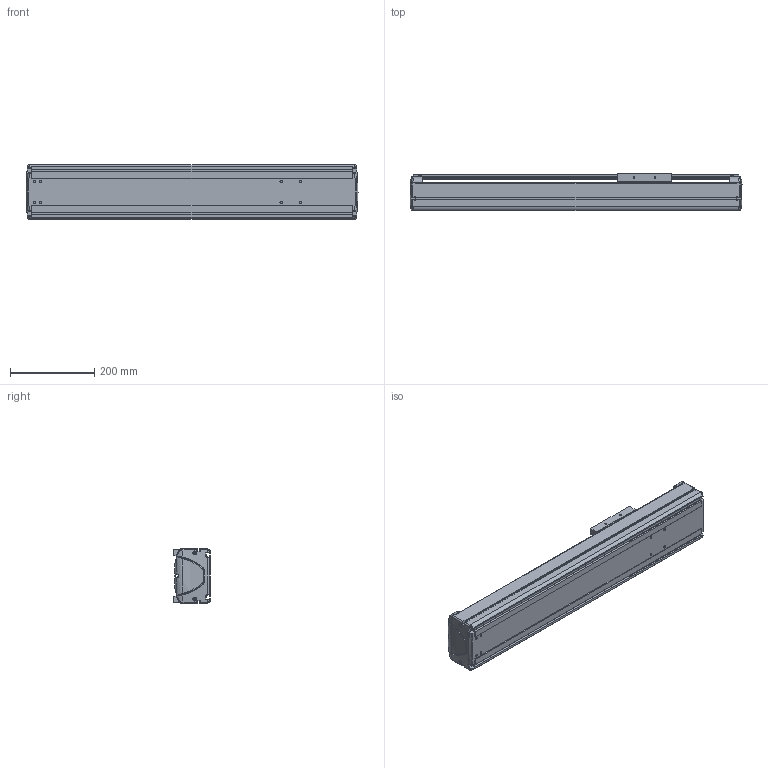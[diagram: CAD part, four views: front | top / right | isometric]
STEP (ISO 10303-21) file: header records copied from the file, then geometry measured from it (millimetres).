
FILE_DESCRIPTION((''),'2;1');
FILE_NAME('BE30E-ST-M_N-45_IGS_PRT','2017-06-17T',(' '),(''),'PRO/ENGINEER BY PARAMETRIC TECHNOLOGY CORPORATION, 2015030','PRO/ENGINEER BY PARAMETRIC TECHNOLOGY CORPORATION, 2015030','');
FILE_SCHEMA(('CONFIG_CONTROL_DESIGN'));
Length unit declared in the file: millimetre
Products named in the file (1): BE30E-ST-M_N-45_IGS_PRT
Bounding box: 790 x 89.8 x 130 mm (x, y, z)
Volume: 2670808.1 mm3; surface area: 972494.3 mm2
Topology: 2 solids, 72 shells, 1313 faces, 3507 edges, 2281 vertices
Faces by surface type: plane 600, cylinder 555, bspline 56, torus 46, cone 32, sphere 24
Entity records: 43878 total; most frequent: CARTESIAN_POINT 11044, DIRECTION 6762, ORIENTED_EDGE 6695, EDGE_CURVE 3487, AXIS2_PLACEMENT_3D 2419, VERTEX_POINT 2281, VECTOR 1924, LINE 1924
